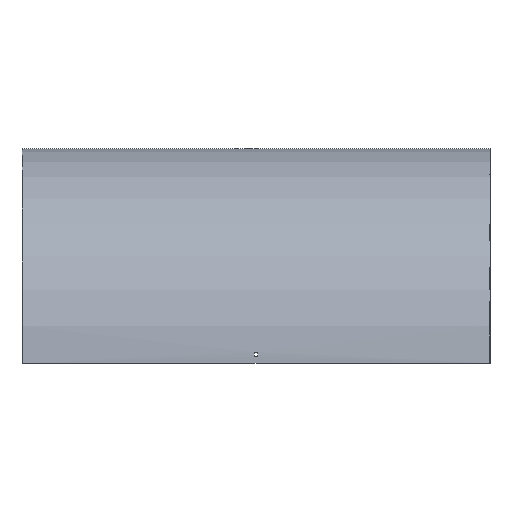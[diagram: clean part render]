
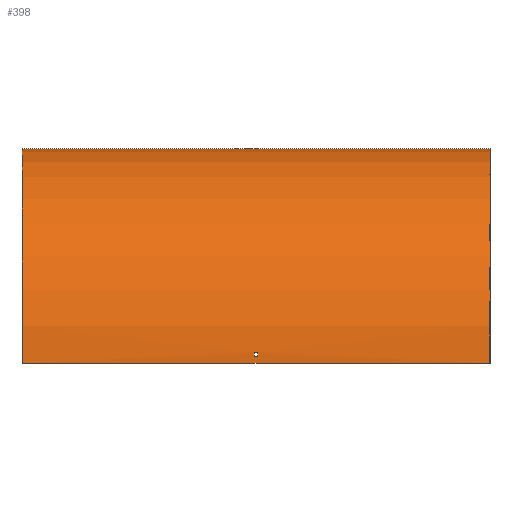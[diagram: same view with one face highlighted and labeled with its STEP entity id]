
A CAD part, top view. The second image highlights one B-rep face of the part: STEP entity #398.
In plain terms, the highlighted cylindrical face has radius 414 mm (diameter 828 mm), a partial arc.
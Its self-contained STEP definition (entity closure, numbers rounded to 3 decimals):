
#5 = CARTESIAN_POINT ( 'NONE',  ( -451.5, -414., 0. ) ) ;
#7 = CARTESIAN_POINT ( 'NONE',  ( -3.25, -414., 0. ) ) ;
#9 = LINE ( 'NONE', #387, #213 ) ;
#15 = CARTESIAN_POINT ( 'NONE',  ( 3.25, -0.533, 21. ) ) ;
#25 = DIRECTION ( 'NONE',  ( -1., 0., 0. ) ) ;
#29 = EDGE_CURVE ( 'NONE', #262, #318, #315, .T. ) ;
#34 = AXIS2_PLACEMENT_3D ( 'NONE', #5, #291, #297 ) ;
#47 = VECTOR ( 'NONE', #454, 1000. ) ;
#51 = CARTESIAN_POINT ( 'NONE',  ( 451.5, -0.533, 21. ) ) ;
#58 = ORIENTED_EDGE ( 'NONE', *, *, #481, .T. ) ;
#62 = EDGE_CURVE ( 'NONE', #300, #552, #115, .T. ) ;
#69 = EDGE_CURVE ( 'NONE', #482, #561, #153, .T. ) ;
#72 = CIRCLE ( 'NONE', #501, 414. ) ;
#80 = CARTESIAN_POINT ( 'NONE',  ( -3.25, -0.174, 12. ) ) ;
#81 = LINE ( 'NONE', #309, #47 ) ;
#93 = DIRECTION ( 'NONE',  ( -1., 0., 0. ) ) ;
#94 = EDGE_LOOP ( 'NONE', ( #201, #269, #112, #601 ) ) ;
#97 = FACE_OUTER_BOUND ( 'NONE', #225, .T. ) ;
#104 = DIRECTION ( 'NONE',  ( -1., 0., 0. ) ) ;
#109 = CARTESIAN_POINT ( 'NONE',  ( 3.25, -414., 0. ) ) ;
#112 = ORIENTED_EDGE ( 'NONE', *, *, #29, .F. ) ;
#113 = CARTESIAN_POINT ( 'NONE',  ( -451.5, 0., 0. ) ) ;
#115 = CIRCLE ( 'NONE', #431, 414. ) ;
#126 = ORIENTED_EDGE ( 'NONE', *, *, #130, .T. ) ;
#128 = CARTESIAN_POINT ( 'NONE',  ( 451.5, -414., 414. ) ) ;
#130 = EDGE_CURVE ( 'NONE', #561, #324, #565, .T. ) ;
#135 = EDGE_CURVE ( 'NONE', #371, #495, #574, .T. ) ;
#139 = CARTESIAN_POINT ( 'NONE',  ( -451.5, -414., 414. ) ) ;
#143 = CARTESIAN_POINT ( 'NONE',  ( -3.25, -393., 413.467 ) ) ;
#153 = LINE ( 'NONE', #294, #545 ) ;
#159 = DIRECTION ( 'NONE',  ( 0., 0., -1. ) ) ;
#168 = CARTESIAN_POINT ( 'NONE',  ( 3.25, -402., 413.826 ) ) ;
#170 = DIRECTION ( 'NONE',  ( -1., 0., 0. ) ) ;
#188 = FACE_BOUND ( 'NONE', #94, .T. ) ;
#190 = AXIS2_PLACEMENT_3D ( 'NONE', #109, #195, #476 ) ;
#191 = CARTESIAN_POINT ( 'NONE',  ( 3.25, -393., 413.467 ) ) ;
#195 = DIRECTION ( 'NONE',  ( 1., 0., 0. ) ) ;
#196 = AXIS2_PLACEMENT_3D ( 'NONE', #7, #25, #437 ) ;
#201 = ORIENTED_EDGE ( 'NONE', *, *, #62, .F. ) ;
#212 = EDGE_CURVE ( 'NONE', #482, #517, #72, .T. ) ;
#213 = VECTOR ( 'NONE', #335, 1000. ) ;
#223 = LINE ( 'NONE', #128, #498 ) ;
#225 = EDGE_LOOP ( 'NONE', ( #126, #397, #285, #272 ) ) ;
#232 = EDGE_CURVE ( 'NONE', #318, #300, #81, .T. ) ;
#251 = AXIS2_PLACEMENT_3D ( 'NONE', #336, #104, #534 ) ;
#260 = DIRECTION ( 'NONE',  ( 1., 0., 0. ) ) ;
#262 = VERTEX_POINT ( 'NONE', #168 ) ;
#269 = ORIENTED_EDGE ( 'NONE', *, *, #232, .F. ) ;
#271 = CARTESIAN_POINT ( 'NONE',  ( 451.5, -414., 0. ) ) ;
#272 = ORIENTED_EDGE ( 'NONE', *, *, #69, .T. ) ;
#285 = ORIENTED_EDGE ( 'NONE', *, *, #212, .F. ) ;
#291 = DIRECTION ( 'NONE',  ( 1., 0., 0. ) ) ;
#294 = CARTESIAN_POINT ( 'NONE',  ( 451.5, 0., 0. ) ) ;
#297 = DIRECTION ( 'NONE',  ( 0., 0., -1. ) ) ;
#300 = VERTEX_POINT ( 'NONE', #143 ) ;
#306 = CARTESIAN_POINT ( 'NONE',  ( 451.5, -414., 414. ) ) ;
#309 = CARTESIAN_POINT ( 'NONE',  ( 451.5, -393., 413.467 ) ) ;
#315 = CIRCLE ( 'NONE', #374, 414. ) ;
#318 = VERTEX_POINT ( 'NONE', #191 ) ;
#324 = VERTEX_POINT ( 'NONE', #139 ) ;
#327 = EDGE_CURVE ( 'NONE', #495, #522, #536, .T. ) ;
#334 = VECTOR ( 'NONE', #526, 1000. ) ;
#335 = DIRECTION ( 'NONE',  ( 1., 0., 0. ) ) ;
#336 = CARTESIAN_POINT ( 'NONE',  ( 451.5, -414., 0. ) ) ;
#344 = ORIENTED_EDGE ( 'NONE', *, *, #327, .T. ) ;
#360 = DIRECTION ( 'NONE',  ( 0., 0., 1. ) ) ;
#362 = EDGE_CURVE ( 'NONE', #590, #371, #9, .T. ) ;
#371 = VERTEX_POINT ( 'NONE', #473 ) ;
#374 = AXIS2_PLACEMENT_3D ( 'NONE', #597, #170, #360 ) ;
#384 = CARTESIAN_POINT ( 'NONE',  ( 451.5, 0., 0. ) ) ;
#386 = EDGE_CURVE ( 'NONE', #552, #262, #566, .T. ) ;
#387 = CARTESIAN_POINT ( 'NONE',  ( 451.5, -0.174, 12. ) ) ;
#397 = ORIENTED_EDGE ( 'NONE', *, *, #554, .F. ) ;
#398 = ADVANCED_FACE ( 'NONE', ( #97, #562, #188 ), #583, .T. ) ;
#403 = EDGE_LOOP ( 'NONE', ( #344, #58, #555, #470 ) ) ;
#417 = VECTOR ( 'NONE', #93, 1000. ) ;
#426 = CARTESIAN_POINT ( 'NONE',  ( 451.5, -402., 413.826 ) ) ;
#431 = AXIS2_PLACEMENT_3D ( 'NONE', #474, #589, #581 ) ;
#437 = DIRECTION ( 'NONE',  ( 0., 0., 1. ) ) ;
#450 = DIRECTION ( 'NONE',  ( -1., 0., 0. ) ) ;
#454 = DIRECTION ( 'NONE',  ( -1., 0., 0. ) ) ;
#470 = ORIENTED_EDGE ( 'NONE', *, *, #135, .T. ) ;
#473 = CARTESIAN_POINT ( 'NONE',  ( 3.25, -0.174, 12. ) ) ;
#474 = CARTESIAN_POINT ( 'NONE',  ( -3.25, -414., 0. ) ) ;
#476 = DIRECTION ( 'NONE',  ( 0., 0., -1. ) ) ;
#478 = CARTESIAN_POINT ( 'NONE',  ( -3.25, -0.533, 21. ) ) ;
#481 = EDGE_CURVE ( 'NONE', #522, #590, #523, .T. ) ;
#482 = VERTEX_POINT ( 'NONE', #384 ) ;
#486 = DIRECTION ( 'NONE',  ( -1., 0., 0. ) ) ;
#495 = VERTEX_POINT ( 'NONE', #15 ) ;
#498 = VECTOR ( 'NONE', #450, 1000. ) ;
#501 = AXIS2_PLACEMENT_3D ( 'NONE', #271, #260, #159 ) ;
#517 = VERTEX_POINT ( 'NONE', #306 ) ;
#522 = VERTEX_POINT ( 'NONE', #478 ) ;
#523 = CIRCLE ( 'NONE', #196, 414. ) ;
#526 = DIRECTION ( 'NONE',  ( 1., 0., 0. ) ) ;
#534 = DIRECTION ( 'NONE',  ( 0., 0., 1. ) ) ;
#536 = LINE ( 'NONE', #51, #417 ) ;
#545 = VECTOR ( 'NONE', #486, 1000. ) ;
#550 = CARTESIAN_POINT ( 'NONE',  ( -3.25, -402., 413.826 ) ) ;
#552 = VERTEX_POINT ( 'NONE', #550 ) ;
#554 = EDGE_CURVE ( 'NONE', #517, #324, #223, .T. ) ;
#555 = ORIENTED_EDGE ( 'NONE', *, *, #362, .T. ) ;
#561 = VERTEX_POINT ( 'NONE', #113 ) ;
#562 = FACE_BOUND ( 'NONE', #403, .T. ) ;
#565 = CIRCLE ( 'NONE', #34, 414. ) ;
#566 = LINE ( 'NONE', #426, #334 ) ;
#574 = CIRCLE ( 'NONE', #190, 414. ) ;
#581 = DIRECTION ( 'NONE',  ( 0., 1., 0. ) ) ;
#583 = CYLINDRICAL_SURFACE ( 'NONE', #251, 414. ) ;
#589 = DIRECTION ( 'NONE',  ( 1., 0., 0. ) ) ;
#590 = VERTEX_POINT ( 'NONE', #80 ) ;
#597 = CARTESIAN_POINT ( 'NONE',  ( 3.25, -414., 0. ) ) ;
#601 = ORIENTED_EDGE ( 'NONE', *, *, #386, .F. ) ;
